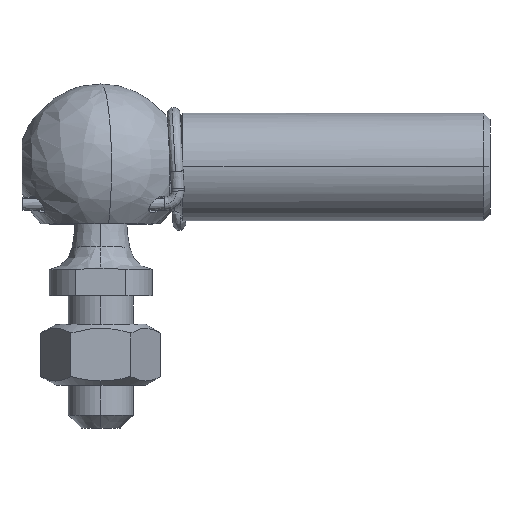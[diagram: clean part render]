
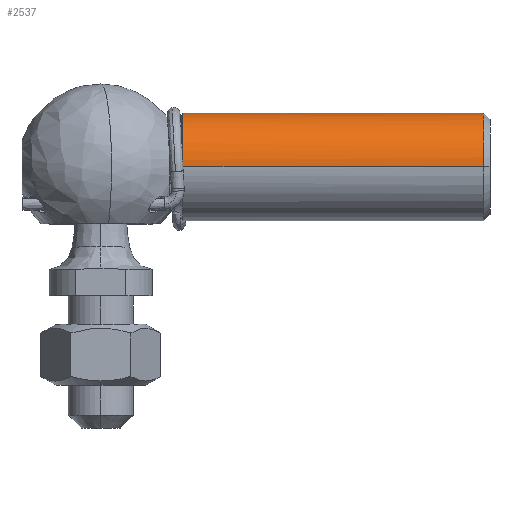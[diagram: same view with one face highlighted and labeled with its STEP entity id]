
A CAD part, top view. The second image highlights one B-rep face of the part: STEP entity #2537.
In plain terms, the highlighted cylindrical face has radius 4.15 mm (diameter 8.3 mm), a partial arc.
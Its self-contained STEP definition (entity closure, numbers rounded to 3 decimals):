
#141 = CARTESIAN_POINT ( 'NONE',  ( -15.692, 0.352, 4.139 ) ) ;
#182 = CARTESIAN_POINT ( 'NONE',  ( -15.701, 0.529, 4.116 ) ) ;
#235 = EDGE_CURVE ( 'NONE', #3171, #4699, #4268, .T. ) ;
#319 = CARTESIAN_POINT ( 'NONE',  ( -7.851, -0.004, 4.15 ) ) ;
#402 = CARTESIAN_POINT ( 'NONE',  ( -7.851, -0.004, -4.15 ) ) ;
#636 = ORIENTED_EDGE ( 'NONE', *, *, #3564, .F. ) ;
#845 = VERTEX_POINT ( 'NONE', #3204 ) ;
#1021 = ORIENTED_EDGE ( 'NONE', *, *, #3693, .T. ) ;
#1161 = AXIS2_PLACEMENT_3D ( 'NONE', #4946, #1695, #1732 ) ;
#1199 = DIRECTION ( 'NONE',  ( -1., 0., 0. ) ) ;
#1384 = AXIS2_PLACEMENT_3D ( 'NONE', #2899, #3662, #2508 ) ;
#1588 = VERTEX_POINT ( 'NONE', #3029 ) ;
#1695 = DIRECTION ( 'NONE',  ( -1., 0., 0. ) ) ;
#1699 = CARTESIAN_POINT ( 'NONE',  ( 7.499, -0.004, 4.15 ) ) ;
#1732 = DIRECTION ( 'NONE',  ( 0., 0., -1. ) ) ;
#1848 = CARTESIAN_POINT ( 'NONE',  ( -15.674, -0.004, 4.15 ) ) ;
#1880 = CYLINDRICAL_SURFACE ( 'NONE', #4211, 4.15 ) ;
#2070 = EDGE_LOOP ( 'NONE', ( #1021, #2095, #636, #2805, #4513 ) ) ;
#2095 = ORIENTED_EDGE ( 'NONE', *, *, #2690, .T. ) ;
#2430 = DIRECTION ( 'NONE',  ( 0., 0., 1. ) ) ;
#2453 = FACE_OUTER_BOUND ( 'NONE', #2070, .T. ) ;
#2508 = DIRECTION ( 'NONE',  ( 0., 0., 1. ) ) ;
#2519 = CIRCLE ( 'NONE', #1384, 4.15 ) ;
#2537 = ADVANCED_FACE ( 'NONE', ( #2453 ), #1880, .T. ) ;
#2580 = LINE ( 'NONE', #402, #3261 ) ;
#2606 = B_SPLINE_CURVE_WITH_KNOTS ( 'NONE', 3,
 ( #182, #141, #2985, #1848 ),
 .UNSPECIFIED., .F., .F.,
 ( 4, 4 ),
 ( 0., 0.001 ),
 .UNSPECIFIED. ) ;
#2690 = EDGE_CURVE ( 'NONE', #4852, #1588, #2580, .T. ) ;
#2805 = ORIENTED_EDGE ( 'NONE', *, *, #3285, .T. ) ;
#2899 = CARTESIAN_POINT ( 'NONE',  ( 7.499, -0.004, 0. ) ) ;
#2939 = CARTESIAN_POINT ( 'NONE',  ( 7.499, -0.004, -4.15 ) ) ;
#2985 = CARTESIAN_POINT ( 'NONE',  ( -15.683, 0.174, 4.15 ) ) ;
#3029 = CARTESIAN_POINT ( 'NONE',  ( -15.701, -0.004, -4.15 ) ) ;
#3171 = VERTEX_POINT ( 'NONE', #1699 ) ;
#3204 = CARTESIAN_POINT ( 'NONE',  ( -15.701, 0.529, 4.116 ) ) ;
#3261 = VECTOR ( 'NONE', #1199, 1000. ) ;
#3285 = EDGE_CURVE ( 'NONE', #845, #4699, #2606, .T. ) ;
#3564 = EDGE_CURVE ( 'NONE', #845, #1588, #3775, .T. ) ;
#3604 = DIRECTION ( 'NONE',  ( -1., 0., 0. ) ) ;
#3631 = CARTESIAN_POINT ( 'NONE',  ( -15.674, -0.004, 4.15 ) ) ;
#3662 = DIRECTION ( 'NONE',  ( -1., 0., 0. ) ) ;
#3693 = EDGE_CURVE ( 'NONE', #3171, #4852, #2519, .T. ) ;
#3775 = CIRCLE ( 'NONE', #1161, 4.15 ) ;
#4122 = VECTOR ( 'NONE', #5150, 1000. ) ;
#4211 = AXIS2_PLACEMENT_3D ( 'NONE', #4850, #3604, #2430 ) ;
#4268 = LINE ( 'NONE', #319, #4122 ) ;
#4513 = ORIENTED_EDGE ( 'NONE', *, *, #235, .F. ) ;
#4699 = VERTEX_POINT ( 'NONE', #3631 ) ;
#4850 = CARTESIAN_POINT ( 'NONE',  ( -7.851, -0.004, 0. ) ) ;
#4852 = VERTEX_POINT ( 'NONE', #2939 ) ;
#4946 = CARTESIAN_POINT ( 'NONE',  ( -15.701, -0.004, 0. ) ) ;
#5150 = DIRECTION ( 'NONE',  ( -1., 0., 0. ) ) ;
